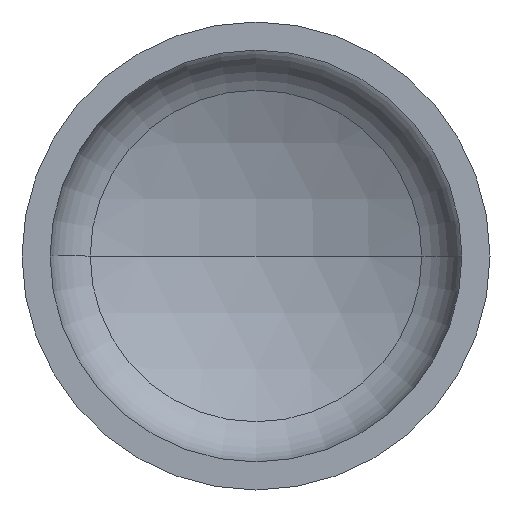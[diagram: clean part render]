
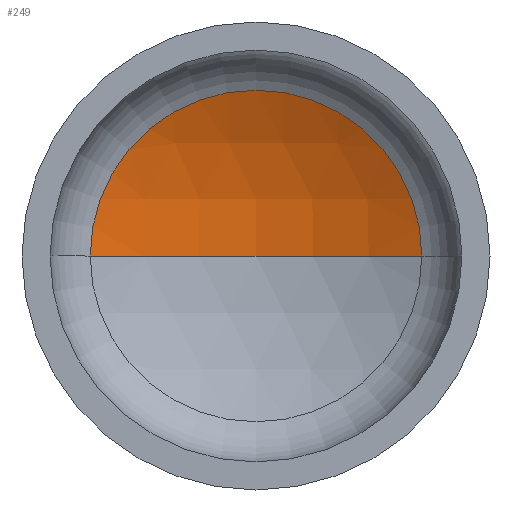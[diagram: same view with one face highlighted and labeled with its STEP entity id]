
A CAD part, front view. The second image highlights one B-rep face of the part: STEP entity #249.
In plain terms, the highlighted spherical face has radius 1040 mm.
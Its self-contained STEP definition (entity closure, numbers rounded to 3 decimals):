
#6 = VERTEX_POINT ( 'NONE', #361 ) ;
#9 = EDGE_LOOP ( 'NONE', ( #21, #13, #84 ) ) ;
#13 = ORIENTED_EDGE ( 'NONE', *, *, #210, .T. ) ;
#21 = ORIENTED_EDGE ( 'NONE', *, *, #212, .F. ) ;
#22 = VERTEX_POINT ( 'NONE', #298 ) ;
#72 = SPHERICAL_SURFACE ( 'NONE', #106, 1040. ) ;
#84 = ORIENTED_EDGE ( 'NONE', *, *, #208, .T. ) ;
#89 = VERTEX_POINT ( 'NONE', #238 ) ;
#106 = AXIS2_PLACEMENT_3D ( 'NONE', #187, #221, #181 ) ;
#119 = AXIS2_PLACEMENT_3D ( 'NONE', #287, #283, #250 ) ;
#122 = AXIS2_PLACEMENT_3D ( 'NONE', #222, #264, #262 ) ;
#124 = AXIS2_PLACEMENT_3D ( 'NONE', #194, #206, #211 ) ;
#181 = DIRECTION ( 'NONE',  ( -1., 0., 0. ) ) ;
#187 = CARTESIAN_POINT ( 'NONE',  ( 0., -633.137, 0. ) ) ;
#194 = CARTESIAN_POINT ( 'NONE',  ( 0., 299.318, 0. ) ) ;
#200 = CIRCLE ( 'NONE', #122, 1040. ) ;
#206 = DIRECTION ( 'NONE',  ( 0., -1., 0. ) ) ;
#208 = EDGE_CURVE ( 'NONE', #89, #22, #266, .T. ) ;
#210 = EDGE_CURVE ( 'NONE', #6, #89, #200, .T. ) ;
#211 = DIRECTION ( 'NONE',  ( 1., 0., 0. ) ) ;
#212 = EDGE_CURVE ( 'NONE', #6, #22, #381, .T. ) ;
#221 = DIRECTION ( 'NONE',  ( 0., 0., -1. ) ) ;
#222 = CARTESIAN_POINT ( 'NONE',  ( 0., -633.137, 0. ) ) ;
#238 = CARTESIAN_POINT ( 'NONE',  ( 460.571, 299.318, 0. ) ) ;
#249 = ADVANCED_FACE ( 'NONE', ( #316 ), #72, .F. ) ;
#250 = DIRECTION ( 'NONE',  ( 1., 0., 0. ) ) ;
#262 = DIRECTION ( 'NONE',  ( -1., 0., 0. ) ) ;
#264 = DIRECTION ( 'NONE',  ( 0., 0., -1. ) ) ;
#266 = CIRCLE ( 'NONE', #124, 460.571 ) ;
#283 = DIRECTION ( 'NONE',  ( 0., 0., 1. ) ) ;
#287 = CARTESIAN_POINT ( 'NONE',  ( 0., -633.137, 0. ) ) ;
#298 = CARTESIAN_POINT ( 'NONE',  ( -460.571, 299.318, 0. ) ) ;
#316 = FACE_OUTER_BOUND ( 'NONE', #9, .T. ) ;
#361 = CARTESIAN_POINT ( 'NONE',  ( 0., 406.863, 0. ) ) ;
#381 = CIRCLE ( 'NONE', #119, 1040. ) ;
